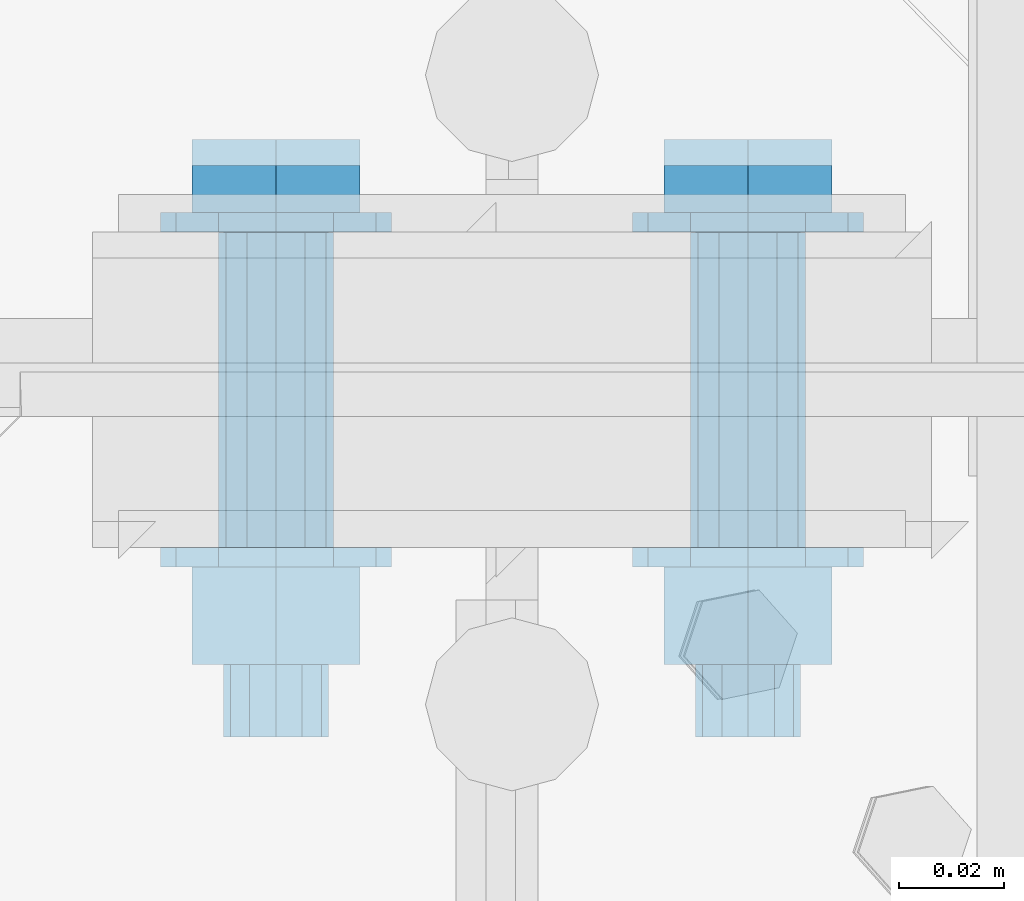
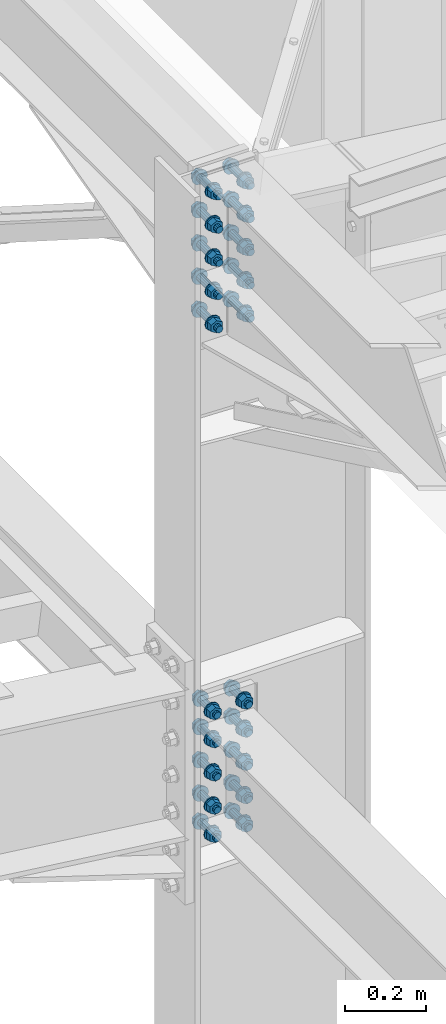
# One storey, part 355 of 3134: 2 mechanical fasteners, 1 element without a shape of its own.
"""IFC2X3 building model written with IfcOpenShell, lengths in millimetres."""

from ifc_helpers import new_model, si_unit, frame, origin_with_axes, place, context, subcontext, project, spatial, faceted_brep, source, transform, mapped, material, type_object, element, aggregate, save


model = new_model("IFC2X3")

# Units and contexts
model_context = context("Model", 3, precision=1e-05, world=origin_with_axes())
body_context = subcontext(model_context, "Body", "Model", "MODEL_VIEW")
ifc_project = project(units=[si_unit("LENGTHUNIT", "METRE", prefix="MILLI"), si_unit("AREAUNIT", "SQUARE_METRE"), si_unit("VOLUMEUNIT", "CUBIC_METRE"), si_unit("MASSUNIT", "GRAM", prefix="KILO"), si_unit("TIMEUNIT", "SECOND"), si_unit("PLANEANGLEUNIT", "RADIAN"), si_unit("SOLIDANGLEUNIT", "STERADIAN"), si_unit("THERMODYNAMICTEMPERATUREUNIT", "DEGREE_CELSIUS"), si_unit("LUMINOUSINTENSITYUNIT", "LUMEN")], contexts=[model_context])

# Site, building, storey
site_placement = place(None, origin_with_axes())
site = spatial("IfcSite", under=ifc_project, at=site_placement, CompositionType="ELEMENT")
building_placement = place(site_placement, origin_with_axes())
building = spatial("IfcBuilding", under=site, at=building_placement, Name="Undefined", CompositionType="ELEMENT")
storey_placement = place(building_placement, origin_with_axes())
storey = spatial("IfcBuildingStorey", under=building, at=storey_placement, Name="Undefined", CompositionType="ELEMENT", Elevation=0.0)

# Assembly, mechanical fasteners
assembly_placement = place(storey_placement, origin_with_axes())
assembly = element("IfcElementAssembly", 1, at=assembly_placement, inside=storey, Name="300", AssemblyPlace="NOTDEFINED", PredefinedType="RIGID_FRAME")
ifc_material = material(Name="HR10.9")
mechanical_fastener_type = type_object("IfcMechanicalFastenerType", Name="Bolt assembly")
shared_shape_1 = source(origin_with_axes(), body_context, "Body", "Brep", [
    faceted_brep([(18.475208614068, -18.3999996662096, 0.0), (9.23760430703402, -18.3999996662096, 16.0), (-9.23760430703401, -18.3999996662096, 16.0), (-18.475208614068, -18.3999996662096, 2.2625605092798e-15), (-9.23760430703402, -18.3999996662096, -16.0), (9.237604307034, -18.3999996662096, -16.0), (9.237604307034, -4.50000004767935, -16.0), (-9.23760430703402, -4.50000004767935, -16.0), (-18.475208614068, -4.50000004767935, 2.2625605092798e-15), (-9.23760430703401, -4.50000004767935, 16.0), (9.23760430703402, -4.50000004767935, 16.0), (18.475208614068, -4.50000004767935, 0.0), (10.0, -4.50000004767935, 0.0), (8.66025403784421, -4.50000004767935, 5.0000000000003), (4.9999999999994, -4.50000004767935, 8.66025403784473), (-1.03633598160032e-12, -4.50000004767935, 10.0), (-5.00000000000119, -4.50000004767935, 8.6602540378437), (-8.66025403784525, -4.50000004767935, 4.99999999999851), (-10.0, -4.50000004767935, -2.07267196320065e-12), (-8.66025403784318, -4.50000004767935, -5.00000000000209), (-4.99999999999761, -4.50000004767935, -8.66025403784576), (3.09790571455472e-12, -4.50000004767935, -10.0), (5.00000000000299, -4.50000004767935, -8.66025403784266), (8.66025403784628, -4.50000004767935, -4.99999999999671), (8.66025403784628, 80.4999999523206, -4.99999999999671), (5.00000000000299, 80.4999999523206, -8.66025403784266), (3.09790571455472e-12, 80.4999999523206, -10.0), (-4.99999999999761, 80.4999999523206, -8.66025403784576), (-8.66025403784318, 80.4999999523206, -5.00000000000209), (-10.0, 80.4999999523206, -2.07267196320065e-12), (-8.66025403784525, 80.4999999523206, 4.99999999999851), (-5.00000000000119, 80.4999999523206, 8.6602540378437), (-1.03633598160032e-12, 80.4999999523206, 10.0), (4.9999999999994, 80.4999999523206, 8.66025403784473), (8.66025403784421, 80.4999999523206, 5.0000000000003), (10.0, 80.4999999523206, 0.0), (22.0, -4.50000004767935, 0.0), (19.0525588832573, -4.50000004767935, 11.0000000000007), (10.9999999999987, -4.50000004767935, 19.0525588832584), (-2.27993915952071e-12, -4.50000004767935, 22.0), (-11.0000000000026, -4.50000004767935, 19.0525588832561), (-19.0525588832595, -4.50000004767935, 10.9999999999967), (-22.0, -4.50000004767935, -4.55987831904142e-12), (-19.052558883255, -4.50000004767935, -11.0000000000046), (-10.9999999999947, -4.50000004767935, -19.0525588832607), (6.81539257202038e-12, -4.50000004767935, -22.0), (11.0000000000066, -4.50000004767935, -19.0525588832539), (19.0525588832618, -4.50000004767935, -10.9999999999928), (19.0525588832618, -0.799999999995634, -10.9999999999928), (11.0000000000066, -0.799999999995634, -19.0525588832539), (6.81539257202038e-12, -0.799999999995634, -22.0), (-10.9999999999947, -0.799999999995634, -19.0525588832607), (-19.052558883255, -0.799999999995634, -11.0000000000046), (-22.0, -0.799999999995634, -4.55987831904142e-12), (-19.0525588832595, -0.799999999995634, 10.9999999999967), (-11.0000000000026, -0.799999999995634, 19.0525588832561), (-2.27993915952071e-12, -0.799999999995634, 22.0), (10.9999999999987, -0.799999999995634, 19.0525588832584), (19.0525588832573, -0.799999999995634, 11.0000000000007), (22.0, -0.799999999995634, 0.0), (22.0, 49.4000000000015, 0.0), (19.0525588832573, 49.4000000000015, 11.0000000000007), (10.9999999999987, 49.4000000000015, 19.0525588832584), (-2.27993915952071e-12, 49.4000000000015, 22.0), (-11.0000000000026, 49.4000000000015, 19.0525588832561), (-19.0525588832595, 49.4000000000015, 10.9999999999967), (-22.0, 49.4000000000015, -4.55987831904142e-12), (-19.052558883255, 49.4000000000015, -11.0000000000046), (-10.9999999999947, 49.4000000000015, -19.0525588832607), (6.81539257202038e-12, 49.4000000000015, -22.0), (11.0000000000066, 49.4000000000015, -19.0525588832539), (19.0525588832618, 49.4000000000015, -10.9999999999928), (19.0525588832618, 53.1000000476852, -10.9999999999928), (11.0000000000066, 53.1000000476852, -19.0525588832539), (6.81539257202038e-12, 53.1000000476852, -22.0), (-10.9999999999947, 53.1000000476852, -19.0525588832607), (-19.052558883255, 53.1000000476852, -11.0000000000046), (-22.0, 53.1000000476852, -4.55987831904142e-12), (-19.0525588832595, 53.1000000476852, 10.9999999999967), (-11.0000000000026, 53.1000000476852, 19.0525588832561), (-2.27993915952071e-12, 53.1000000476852, 22.0), (10.9999999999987, 53.1000000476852, 19.0525588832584), (19.0525588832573, 53.1000000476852, 11.0000000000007), (22.0, 53.1000000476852, 0.0), (18.475208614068, 53.1000000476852, 0.0), (9.23760430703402, 53.1000000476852, 16.0), (-9.23760430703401, 53.1000000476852, 16.0), (-18.475208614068, 53.1000000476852, 2.2625605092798e-15), (-9.23760430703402, 53.1000000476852, -16.0), (9.237604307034, 53.1000000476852, -16.0), (9.237604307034, 71.6499992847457, -16.0), (-9.23760430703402, 71.6499992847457, -16.0), (-18.475208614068, 71.6499992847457, 2.2625605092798e-15), (-9.23760430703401, 71.6499992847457, 16.0), (9.23760430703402, 71.6499992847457, 16.0), (18.475208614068, 71.6499992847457, 0.0)], [[[0, 1, 2, 3, 4, 5]], [[6, 7, 8, 9, 10, 11]], [[0, 11, 10, 1]], [[1, 10, 9, 2]], [[2, 9, 8, 3]], [[3, 8, 7, 4]], [[4, 7, 6, 5]], [[5, 6, 11, 0]], [[12, 13, 14, 15, 16, 17, 18, 19, 20, 21, 22, 23]], [[24, 25, 26, 27, 28, 29, 30, 31, 32, 33, 34, 35]], [[12, 35, 34, 13]], [[13, 34, 33, 14]], [[14, 33, 32, 15]], [[15, 32, 31, 16]], [[16, 31, 30, 17]], [[17, 30, 29, 18]], [[18, 29, 28, 19]], [[19, 28, 27, 20]], [[20, 27, 26, 21]], [[21, 26, 25, 22]], [[22, 25, 24, 23]], [[23, 24, 35, 12]], [[36, 37, 38, 39, 40, 41, 42, 43, 44, 45, 46, 47]], [[48, 49, 50, 51, 52, 53, 54, 55, 56, 57, 58, 59]], [[36, 59, 58, 37]], [[37, 58, 57, 38]], [[38, 57, 56, 39]], [[39, 56, 55, 40]], [[40, 55, 54, 41]], [[41, 54, 53, 42]], [[42, 53, 52, 43]], [[43, 52, 51, 44]], [[44, 51, 50, 45]], [[45, 50, 49, 46]], [[46, 49, 48, 47]], [[47, 48, 59, 36]], [[60, 61, 62, 63, 64, 65, 66, 67, 68, 69, 70, 71]], [[72, 73, 74, 75, 76, 77, 78, 79, 80, 81, 82, 83]], [[60, 83, 82, 61]], [[61, 82, 81, 62]], [[62, 81, 80, 63]], [[63, 80, 79, 64]], [[64, 79, 78, 65]], [[65, 78, 77, 66]], [[66, 77, 76, 67]], [[67, 76, 75, 68]], [[68, 75, 74, 69]], [[69, 74, 73, 70]], [[70, 73, 72, 71]], [[71, 72, 83, 60]], [[84, 85, 86, 87, 88, 89]], [[90, 91, 92, 93, 94, 95]], [[84, 95, 94, 85]], [[85, 94, 93, 86]], [[86, 93, 92, 87]], [[87, 92, 91, 88]], [[88, 91, 90, 89]], [[89, 90, 95, 84]]]),
    faceted_brep([(11.0, 19.2000000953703, 0.0), (9.52627944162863, 19.2000000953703, 5.50000000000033), (5.49999999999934, 19.2000000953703, 9.5262794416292), (-1.13996957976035e-12, 19.2000000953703, 11.0), (-5.50000000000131, 19.2000000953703, 9.52627944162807), (-9.52627944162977, 19.2000000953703, 5.49999999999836), (-11.0, 19.2000000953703, -2.27993915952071e-12), (-9.5262794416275, 19.2000000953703, -5.5000000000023), (-5.49999999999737, 19.2000000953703, -9.52627944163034), (3.40769628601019e-12, 19.2000000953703, -11.0), (5.50000000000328, 19.2000000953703, -9.52627944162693), (9.52627944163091, 19.2000000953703, -5.49999999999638), (9.52627944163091, 29.3999999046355, -5.49999999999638), (5.50000000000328, 29.3999999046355, -9.52627944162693), (3.40769628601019e-12, 29.3999999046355, -11.0), (-5.49999999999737, 29.3999999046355, -9.52627944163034), (-9.5262794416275, 29.3999999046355, -5.5000000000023), (-11.0, 29.3999999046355, -2.27993915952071e-12), (-9.52627944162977, 29.3999999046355, 5.49999999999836), (-5.50000000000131, 29.3999999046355, 9.52627944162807), (-1.13996957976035e-12, 29.3999999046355, 11.0), (5.49999999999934, 29.3999999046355, 9.5262794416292), (9.52627944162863, 29.3999999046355, 5.50000000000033), (11.0, 29.3999999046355, 0.0), (11.0, -0.699999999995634, 0.0), (9.52627944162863, -0.699999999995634, 5.50000000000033), (5.49999999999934, -0.699999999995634, 9.5262794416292), (-1.13996957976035e-12, -0.699999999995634, 11.0), (-5.50000000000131, -0.699999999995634, 9.52627944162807), (-9.52627944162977, -0.699999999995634, 5.49999999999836), (-11.0, -0.699999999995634, -2.27993915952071e-12), (-9.5262794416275, -0.699999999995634, -5.5000000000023), (-5.49999999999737, -0.699999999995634, -9.52627944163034), (3.40769628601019e-12, -0.699999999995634, -11.0), (5.50000000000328, -0.699999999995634, -9.52627944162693), (9.52627944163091, -0.699999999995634, -5.49999999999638), (9.52627944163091, 19.3000000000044, -5.49999999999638), (5.50000000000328, 19.3000000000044, -9.52627944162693), (3.40769628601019e-12, 19.3000000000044, -11.0), (-5.49999999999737, 19.3000000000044, -9.52627944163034), (-9.5262794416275, 19.3000000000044, -5.5000000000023), (-11.0, 19.3000000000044, -2.27993915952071e-12), (-9.52627944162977, 19.3000000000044, 5.49999999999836), (-5.50000000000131, 19.3000000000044, 9.52627944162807), (-1.13996957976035e-12, 19.3000000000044, 11.0), (5.49999999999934, 19.3000000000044, 9.5262794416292), (9.52627944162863, 19.3000000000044, 5.50000000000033), (11.0, 19.3000000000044, 0.0), (11.0, 29.3000000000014, 0.0), (9.52627944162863, 29.3000000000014, 5.50000000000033), (5.49999999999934, 29.3000000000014, 9.5262794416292), (-1.13996957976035e-12, 29.3000000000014, 11.0), (-5.50000000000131, 29.3000000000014, 9.52627944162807), (-9.52627944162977, 29.3000000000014, 5.49999999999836), (-11.0, 29.3000000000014, -2.27993915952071e-12), (-9.5262794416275, 29.3000000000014, -5.5000000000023), (-5.49999999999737, 29.3000000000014, -9.52627944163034), (3.40769628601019e-12, 29.3000000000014, -11.0), (5.50000000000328, 29.3000000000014, -9.52627944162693), (9.52627944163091, 29.3000000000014, -5.49999999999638), (9.52627944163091, 49.4000000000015, -5.49999999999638), (5.50000000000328, 49.4000000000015, -9.52627944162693), (3.40769628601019e-12, 49.4000000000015, -11.0), (-5.49999999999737, 49.4000000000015, -9.52627944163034), (-9.5262794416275, 49.4000000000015, -5.5000000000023), (-11.0, 49.4000000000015, -2.27993915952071e-12), (-9.52627944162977, 49.4000000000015, 5.49999999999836), (-5.50000000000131, 49.4000000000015, 9.52627944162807), (-1.13996957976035e-12, 49.4000000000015, 11.0), (5.49999999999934, 49.4000000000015, 9.5262794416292), (9.52627944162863, 49.4000000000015, 5.50000000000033), (11.0, 49.4000000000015, 0.0)], [[[0, 1, 2, 3, 4, 5, 6, 7, 8, 9, 10, 11]], [[12, 13, 14, 15, 16, 17, 18, 19, 20, 21, 22, 23]], [[0, 23, 22, 1]], [[1, 22, 21, 2]], [[2, 21, 20, 3]], [[3, 20, 19, 4]], [[4, 19, 18, 5]], [[5, 18, 17, 6]], [[6, 17, 16, 7]], [[7, 16, 15, 8]], [[8, 15, 14, 9]], [[9, 14, 13, 10]], [[10, 13, 12, 11]], [[11, 12, 23, 0]], [[24, 25, 26, 27, 28, 29, 30, 31, 32, 33, 34, 35]], [[36, 37, 38, 39, 40, 41, 42, 43, 44, 45, 46, 47]], [[24, 47, 46, 25]], [[25, 46, 45, 26]], [[26, 45, 44, 27]], [[27, 44, 43, 28]], [[28, 43, 42, 29]], [[29, 42, 41, 30]], [[30, 41, 40, 31]], [[31, 40, 39, 32]], [[32, 39, 38, 33]], [[33, 38, 37, 34]], [[34, 37, 36, 35]], [[35, 36, 47, 24]], [[48, 49, 50, 51, 52, 53, 54, 55, 56, 57, 58, 59]], [[60, 61, 62, 63, 64, 65, 66, 67, 68, 69, 70, 71]], [[48, 71, 70, 49]], [[49, 70, 69, 50]], [[50, 69, 68, 51]], [[51, 68, 67, 52]], [[52, 67, 66, 53]], [[53, 66, 65, 54]], [[54, 65, 64, 55]], [[55, 64, 63, 56]], [[56, 63, 62, 57]], [[57, 62, 61, 58]], [[58, 61, 60, 59]], [[59, 60, 71, 48]]]),
])
mechanical_fastener_1_placement = place(assembly_placement, frame((67550.0, 19474.3, 4273.5), z_axis=(-1.0, 0.0, 0.0), x_axis=(0.0, 0.0, -1.0)))
mechanical_fastener_1 = element("IfcMechanicalFastener", 2, at=mechanical_fastener_1_placement, type_object=mechanical_fastener_type, material=ifc_material, Name="Bolt assembly", NominalDiameter=20.0, NominalLength=85.0, context=body_context, shape_type="MappedRepresentation", body=[
    mapped(shared_shape_1, transform((0.0, 0.0, -45.0))),
    mapped(shared_shape_1, transform((85.0, 0.0, -45.0))),
    mapped(shared_shape_1, transform((185.0, 0.0, -45.0))),
    mapped(shared_shape_1, transform((285.0, 0.0, -45.0))),
    mapped(shared_shape_1, transform((370.0, 0.0, -45.0))),
    mapped(shared_shape_1, transform((0.0, 0.0, 45.0))),
    mapped(shared_shape_1, transform((85.0, 0.0, 45.0))),
    mapped(shared_shape_1, transform((185.0, 0.0, 45.0))),
    mapped(shared_shape_1, transform((285.0, 0.0, 45.0))),
    mapped(shared_shape_1, transform((370.0, 0.0, 45.0))),
])
shared_shape_2 = source(origin_with_axes(), body_context, "Body", "Brep", [
    faceted_brep([(18.475208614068, -47.6999994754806, 0.0), (9.23760430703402, -47.6999994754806, 16.0), (-9.23760430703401, -47.6999994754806, 16.0), (-18.475208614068, -47.6999994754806, 2.2625605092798e-15), (-9.23760430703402, -47.6999994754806, -16.0), (9.237604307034, -47.6999994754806, -16.0), (9.237604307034, -33.7999998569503, -16.0), (-9.23760430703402, -33.7999998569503, -16.0), (-18.475208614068, -33.7999998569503, 2.2625605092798e-15), (-9.23760430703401, -33.7999998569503, 16.0), (9.23760430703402, -33.7999998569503, 16.0), (18.475208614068, -33.7999998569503, 0.0), (10.0, -33.7999998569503, 0.0), (8.66025403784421, -33.7999998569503, 5.0000000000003), (4.9999999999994, -33.7999998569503, 8.66025403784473), (-1.03633598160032e-12, -33.7999998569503, 10.0), (-5.00000000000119, -33.7999998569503, 8.6602540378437), (-8.66025403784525, -33.7999998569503, 4.99999999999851), (-10.0, -33.7999998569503, -2.07267196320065e-12), (-8.66025403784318, -33.7999998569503, -5.00000000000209), (-4.99999999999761, -33.7999998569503, -8.66025403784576), (3.09790571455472e-12, -33.7999998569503, -10.0), (5.00000000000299, -33.7999998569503, -8.66025403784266), (8.66025403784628, -33.7999998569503, -4.99999999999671), (8.66025403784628, 66.2000001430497, -4.99999999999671), (5.00000000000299, 66.2000001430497, -8.66025403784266), (3.09790571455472e-12, 66.2000001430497, -10.0), (-4.99999999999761, 66.2000001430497, -8.66025403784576), (-8.66025403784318, 66.2000001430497, -5.00000000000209), (-10.0, 66.2000001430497, -2.07267196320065e-12), (-8.66025403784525, 66.2000001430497, 4.99999999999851), (-5.00000000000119, 66.2000001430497, 8.6602540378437), (-1.03633598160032e-12, 66.2000001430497, 10.0), (4.9999999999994, 66.2000001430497, 8.66025403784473), (8.66025403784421, 66.2000001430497, 5.0000000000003), (10.0, 66.2000001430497, 0.0), (22.0, -33.7999998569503, 0.0), (19.0525588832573, -33.7999998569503, 11.0000000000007), (10.9999999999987, -33.7999998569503, 19.0525588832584), (-2.27993915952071e-12, -33.7999998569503, 22.0), (-11.0000000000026, -33.7999998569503, 19.0525588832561), (-19.0525588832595, -33.7999998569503, 10.9999999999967), (-22.0, -33.7999998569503, -4.55987831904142e-12), (-19.052558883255, -33.7999998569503, -11.0000000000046), (-10.9999999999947, -33.7999998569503, -19.0525588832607), (6.81539257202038e-12, -33.7999998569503, -22.0), (11.0000000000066, -33.7999998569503, -19.0525588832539), (19.0525588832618, -33.7999998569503, -10.9999999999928), (19.0525588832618, -30.0999998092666, -10.9999999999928), (11.0000000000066, -30.0999998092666, -19.0525588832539), (6.81539257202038e-12, -30.0999998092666, -22.0), (-10.9999999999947, -30.0999998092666, -19.0525588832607), (-19.052558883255, -30.0999998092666, -11.0000000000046), (-22.0, -30.0999998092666, -4.55987831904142e-12), (-19.0525588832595, -30.0999998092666, 10.9999999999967), (-11.0000000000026, -30.0999998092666, 19.0525588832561), (-2.27993915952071e-12, -30.0999998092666, 22.0), (10.9999999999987, -30.0999998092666, 19.0525588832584), (19.0525588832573, -30.0999998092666, 11.0000000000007), (22.0, -30.0999998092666, 0.0), (22.0, 30.0999999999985, 0.0), (19.0525588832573, 30.0999999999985, 11.0000000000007), (10.9999999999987, 30.0999999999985, 19.0525588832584), (-2.27993915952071e-12, 30.0999999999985, 22.0), (-11.0000000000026, 30.0999999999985, 19.0525588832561), (-19.0525588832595, 30.0999999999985, 10.9999999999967), (-22.0, 30.0999999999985, -4.55987831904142e-12), (-19.052558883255, 30.0999999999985, -11.0000000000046), (-10.9999999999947, 30.0999999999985, -19.0525588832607), (6.81539257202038e-12, 30.0999999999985, -22.0), (11.0000000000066, 30.0999999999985, -19.0525588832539), (19.0525588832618, 30.0999999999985, -10.9999999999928), (19.0525588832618, 33.8000000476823, -10.9999999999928), (11.0000000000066, 33.8000000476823, -19.0525588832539), (6.81539257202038e-12, 33.8000000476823, -22.0), (-10.9999999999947, 33.8000000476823, -19.0525588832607), (-19.052558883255, 33.8000000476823, -11.0000000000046), (-22.0, 33.8000000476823, -4.55987831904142e-12), (-19.0525588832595, 33.8000000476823, 10.9999999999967), (-11.0000000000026, 33.8000000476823, 19.0525588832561), (-2.27993915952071e-12, 33.8000000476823, 22.0), (10.9999999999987, 33.8000000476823, 19.0525588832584), (19.0525588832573, 33.8000000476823, 11.0000000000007), (22.0, 33.8000000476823, 0.0), (18.475208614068, 33.8000000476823, 0.0), (9.23760430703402, 33.8000000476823, 16.0), (-9.23760430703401, 33.8000000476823, 16.0), (-18.475208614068, 33.8000000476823, 2.2625605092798e-15), (-9.23760430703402, 33.8000000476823, -16.0), (9.237604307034, 33.8000000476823, -16.0), (9.237604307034, 52.3499992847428, -16.0), (-9.23760430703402, 52.3499992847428, -16.0), (-18.475208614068, 52.3499992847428, 2.2625605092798e-15), (-9.23760430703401, 52.3499992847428, 16.0), (9.23760430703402, 52.3499992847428, 16.0), (18.475208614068, 52.3499992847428, 0.0)], [[[0, 1, 2, 3, 4, 5]], [[6, 7, 8, 9, 10, 11]], [[0, 11, 10, 1]], [[1, 10, 9, 2]], [[2, 9, 8, 3]], [[3, 8, 7, 4]], [[4, 7, 6, 5]], [[5, 6, 11, 0]], [[12, 13, 14, 15, 16, 17, 18, 19, 20, 21, 22, 23]], [[24, 25, 26, 27, 28, 29, 30, 31, 32, 33, 34, 35]], [[12, 35, 34, 13]], [[13, 34, 33, 14]], [[14, 33, 32, 15]], [[15, 32, 31, 16]], [[16, 31, 30, 17]], [[17, 30, 29, 18]], [[18, 29, 28, 19]], [[19, 28, 27, 20]], [[20, 27, 26, 21]], [[21, 26, 25, 22]], [[22, 25, 24, 23]], [[23, 24, 35, 12]], [[36, 37, 38, 39, 40, 41, 42, 43, 44, 45, 46, 47]], [[48, 49, 50, 51, 52, 53, 54, 55, 56, 57, 58, 59]], [[36, 59, 58, 37]], [[37, 58, 57, 38]], [[38, 57, 56, 39]], [[39, 56, 55, 40]], [[40, 55, 54, 41]], [[41, 54, 53, 42]], [[42, 53, 52, 43]], [[43, 52, 51, 44]], [[44, 51, 50, 45]], [[45, 50, 49, 46]], [[46, 49, 48, 47]], [[47, 48, 59, 36]], [[60, 61, 62, 63, 64, 65, 66, 67, 68, 69, 70, 71]], [[72, 73, 74, 75, 76, 77, 78, 79, 80, 81, 82, 83]], [[60, 83, 82, 61]], [[61, 82, 81, 62]], [[62, 81, 80, 63]], [[63, 80, 79, 64]], [[64, 79, 78, 65]], [[65, 78, 77, 66]], [[66, 77, 76, 67]], [[67, 76, 75, 68]], [[68, 75, 74, 69]], [[69, 74, 73, 70]], [[70, 73, 72, 71]], [[71, 72, 83, 60]], [[84, 85, 86, 87, 88, 89]], [[90, 91, 92, 93, 94, 95]], [[84, 95, 94, 85]], [[85, 94, 93, 86]], [[86, 93, 92, 87]], [[87, 92, 91, 88]], [[88, 91, 90, 89]], [[89, 90, 95, 84]]]),
    faceted_brep([(11.0, -5.09999980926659, 0.0), (9.52627944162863, -5.09999980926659, 5.50000000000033), (5.49999999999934, -5.09999980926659, 9.5262794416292), (-1.13996957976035e-12, -5.09999980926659, 11.0), (-5.50000000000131, -5.09999980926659, 9.52627944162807), (-9.52627944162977, -5.09999980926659, 5.49999999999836), (-11.0, -5.09999980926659, -2.27993915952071e-12), (-9.5262794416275, -5.09999980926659, -5.5000000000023), (-5.49999999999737, -5.09999980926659, -9.52627944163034), (3.40769628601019e-12, -5.09999980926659, -11.0), (5.50000000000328, -5.09999980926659, -9.52627944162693), (9.52627944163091, -5.09999980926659, -5.49999999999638), (9.52627944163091, 5.09999999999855, -5.49999999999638), (5.50000000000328, 5.09999999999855, -9.52627944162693), (3.40769628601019e-12, 5.09999999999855, -11.0), (-5.49999999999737, 5.09999999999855, -9.52627944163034), (-9.5262794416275, 5.09999999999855, -5.5000000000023), (-11.0, 5.09999999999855, -2.27993915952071e-12), (-9.52627944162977, 5.09999999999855, 5.49999999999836), (-5.50000000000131, 5.09999999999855, 9.52627944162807), (-1.13996957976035e-12, 5.09999999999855, 11.0), (5.49999999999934, 5.09999999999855, 9.5262794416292), (9.52627944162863, 5.09999999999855, 5.50000000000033), (11.0, 5.09999999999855, 0.0), (11.0, -29.9999998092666, 0.0), (9.52627944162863, -29.9999998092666, 5.50000000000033), (5.49999999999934, -29.9999998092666, 9.5262794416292), (-1.13996957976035e-12, -29.9999998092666, 11.0), (-5.50000000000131, -29.9999998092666, 9.52627944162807), (-9.52627944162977, -29.9999998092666, 5.49999999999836), (-11.0, -29.9999998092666, -2.27993915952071e-12), (-9.5262794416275, -29.9999998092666, -5.5000000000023), (-5.49999999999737, -29.9999998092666, -9.52627944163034), (3.40769628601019e-12, -29.9999998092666, -11.0), (5.50000000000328, -29.9999998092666, -9.52627944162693), (9.52627944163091, -29.9999998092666, -5.49999999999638), (9.52627944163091, -4.99999980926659, -5.49999999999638), (5.50000000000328, -4.99999980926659, -9.52627944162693), (3.40769628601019e-12, -4.99999980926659, -11.0), (-5.49999999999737, -4.99999980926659, -9.52627944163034), (-9.5262794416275, -4.99999980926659, -5.5000000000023), (-11.0, -4.99999980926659, -2.27993915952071e-12), (-9.52627944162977, -4.99999980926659, 5.49999999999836), (-5.50000000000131, -4.99999980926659, 9.52627944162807), (-1.13996957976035e-12, -4.99999980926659, 11.0), (5.49999999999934, -4.99999980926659, 9.5262794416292), (9.52627944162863, -4.99999980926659, 5.50000000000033), (11.0, -4.99999980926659, 0.0), (11.0, 4.99999999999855, 0.0), (9.52627944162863, 4.99999999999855, 5.50000000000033), (5.49999999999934, 4.99999999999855, 9.5262794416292), (-1.13996957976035e-12, 4.99999999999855, 11.0), (-5.50000000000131, 4.99999999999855, 9.52627944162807), (-9.52627944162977, 4.99999999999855, 5.49999999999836), (-11.0, 4.99999999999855, -2.27993915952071e-12), (-9.5262794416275, 4.99999999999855, -5.5000000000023), (-5.49999999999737, 4.99999999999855, -9.52627944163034), (3.40769628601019e-12, 4.99999999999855, -11.0), (5.50000000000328, 4.99999999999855, -9.52627944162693), (9.52627944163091, 4.99999999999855, -5.49999999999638), (9.52627944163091, 30.0999999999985, -5.49999999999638), (5.50000000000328, 30.0999999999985, -9.52627944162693), (3.40769628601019e-12, 30.0999999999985, -11.0), (-5.49999999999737, 30.0999999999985, -9.52627944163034), (-9.5262794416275, 30.0999999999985, -5.5000000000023), (-11.0, 30.0999999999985, -2.27993915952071e-12), (-9.52627944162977, 30.0999999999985, 5.49999999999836), (-5.50000000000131, 30.0999999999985, 9.52627944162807), (-1.13996957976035e-12, 30.0999999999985, 11.0), (5.49999999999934, 30.0999999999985, 9.5262794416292), (9.52627944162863, 30.0999999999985, 5.50000000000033), (11.0, 30.0999999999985, 0.0)], [[[0, 1, 2, 3, 4, 5, 6, 7, 8, 9, 10, 11]], [[12, 13, 14, 15, 16, 17, 18, 19, 20, 21, 22, 23]], [[0, 23, 22, 1]], [[1, 22, 21, 2]], [[2, 21, 20, 3]], [[3, 20, 19, 4]], [[4, 19, 18, 5]], [[5, 18, 17, 6]], [[6, 17, 16, 7]], [[7, 16, 15, 8]], [[8, 15, 14, 9]], [[9, 14, 13, 10]], [[10, 13, 12, 11]], [[11, 12, 23, 0]], [[24, 25, 26, 27, 28, 29, 30, 31, 32, 33, 34, 35]], [[36, 37, 38, 39, 40, 41, 42, 43, 44, 45, 46, 47]], [[24, 47, 46, 25]], [[25, 46, 45, 26]], [[26, 45, 44, 27]], [[27, 44, 43, 28]], [[28, 43, 42, 29]], [[29, 42, 41, 30]], [[30, 41, 40, 31]], [[31, 40, 39, 32]], [[32, 39, 38, 33]], [[33, 38, 37, 34]], [[34, 37, 36, 35]], [[35, 36, 47, 24]], [[48, 49, 50, 51, 52, 53, 54, 55, 56, 57, 58, 59]], [[60, 61, 62, 63, 64, 65, 66, 67, 68, 69, 70, 71]], [[48, 71, 70, 49]], [[49, 70, 69, 50]], [[50, 69, 68, 51]], [[51, 68, 67, 52]], [[52, 67, 66, 53]], [[53, 66, 65, 54]], [[54, 65, 64, 55]], [[55, 64, 63, 56]], [[56, 63, 62, 57]], [[57, 62, 61, 58]], [[58, 61, 60, 59]], [[59, 60, 71, 48]]]),
])
mechanical_fastener_2_placement = place(assembly_placement, frame((67550.0, 19450.0000000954, 5841.5), z_axis=(-1.0, 0.0, 0.0), x_axis=(0.0, 0.0, -1.0)))
mechanical_fastener_2 = element("IfcMechanicalFastener", 3, at=mechanical_fastener_2_placement, type_object=mechanical_fastener_type, material=ifc_material, Name="Bolt assembly", NominalDiameter=20.0, NominalLength=100.0, context=body_context, shape_type="MappedRepresentation", body=[
    mapped(shared_shape_2, transform((0.0, 0.0, -45.0))),
    mapped(shared_shape_2, transform((100.0, 0.0, -45.0))),
    mapped(shared_shape_2, transform((200.0, 0.0, -45.0))),
    mapped(shared_shape_2, transform((300.0, 0.0, -45.0))),
    mapped(shared_shape_2, transform((400.0, 0.0, -45.0))),
    mapped(shared_shape_2, transform((0.0, 0.0, 45.0))),
    mapped(shared_shape_2, transform((100.0, 0.0, 45.0))),
    mapped(shared_shape_2, transform((200.0, 0.0, 45.0))),
    mapped(shared_shape_2, transform((300.0, 0.0, 45.0))),
    mapped(shared_shape_2, transform((400.0, 0.0, 45.0))),
])
aggregate(assembly, [mechanical_fastener_1, mechanical_fastener_2])

save(model, "model.ifc")
